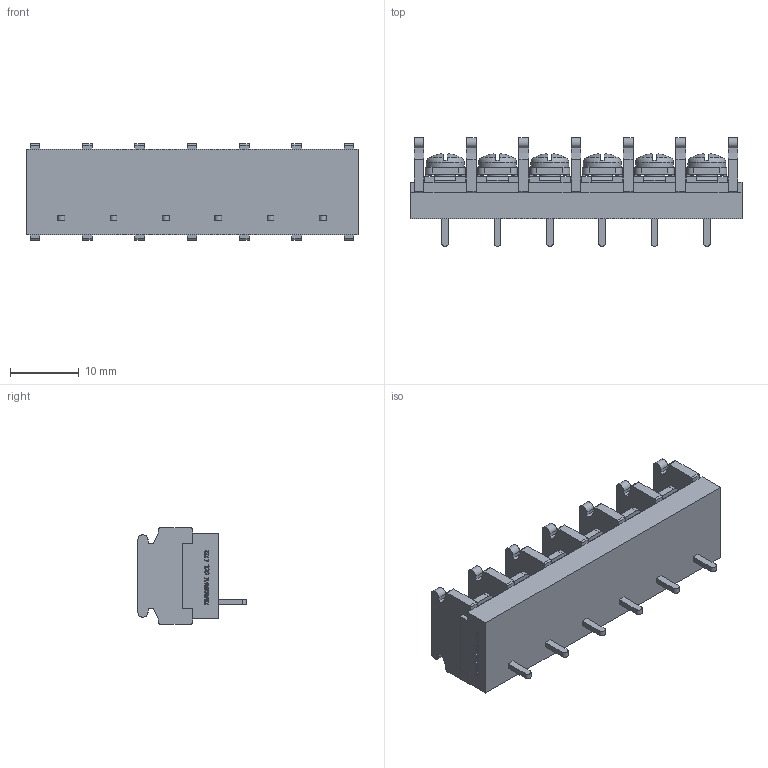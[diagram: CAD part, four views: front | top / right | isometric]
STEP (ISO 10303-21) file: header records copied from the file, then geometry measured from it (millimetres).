
FILE_DESCRIPTION(/* description */ ('Alibre Inc.'),/* implementation_level */ '2;1');
FILE_NAME(/* name */ 'export0',/* time_stamp */ '2015-10-23T19:26:16+09:00',/* author */ (''),/* organization */ (''),/* preprocessor_version */ 'ST-DEVELOPER v14',/* originating_system */ 'Alibre',/* authorisation */ '');
FILE_SCHEMA (('CONFIG_CONTROL_DESIGN'));
Length unit declared in the file: centimetre
Products named in the file (1): ID_1
Bounding box: 48.34 x 15.8 x 14 mm (x, y, z)
Volume: 4583.3 mm3; surface area: 4420.7 mm2
Topology: 1 solids, 1 shells, 1086 faces, 2978 edges, 1958 vertices
Faces by surface type: plane 832, bspline 104, cylinder 102, cone 24, torus 12, sphere 12
Full cylindrical faces by diameter (mm): 3 x6, 5.5 x6
Entity records: 32863 total; most frequent: CARTESIAN_POINT 7317, ORIENTED_EDGE 5860, DIRECTION 4004, EDGE_CURVE 2930, VECTOR 2152, LINE 2152, VERTEX_POINT 1934, AXIS2_PLACEMENT_3D 1311
